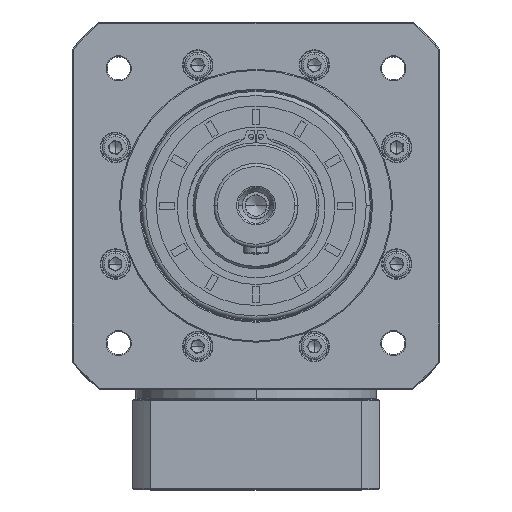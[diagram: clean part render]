
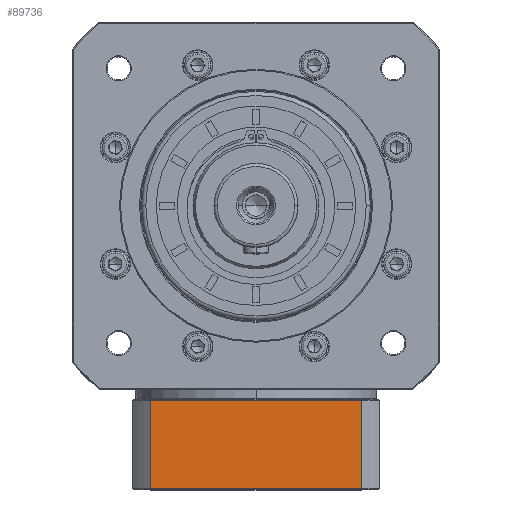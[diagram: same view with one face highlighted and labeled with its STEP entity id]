
A CAD part, top view. The second image highlights one B-rep face of the part: STEP entity #89736.
In plain terms, the highlighted planar face has unit normal (0, 0, 1).
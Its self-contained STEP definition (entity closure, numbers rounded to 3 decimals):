
#6476 = CARTESIAN_POINT ( 'NONE',  ( -244.499, -187.041, 76.611 ) ) ;
#8616 = PLANE ( 'NONE',  #105756 ) ;
#15296 = DIRECTION ( 'NONE',  ( 0., -1., 0. ) ) ;
#17788 = ORIENTED_EDGE ( 'NONE', *, *, #144163, .F. ) ;
#18809 = VECTOR ( 'NONE', #36277, 1000. ) ;
#22966 = ORIENTED_EDGE ( 'NONE', *, *, #58788, .F. ) ;
#29590 = EDGE_CURVE ( 'NONE', #146465, #145043, #51987, .T. ) ;
#32037 = DIRECTION ( 'NONE',  ( -1., 0., 0. ) ) ;
#36277 = DIRECTION ( 'NONE',  ( -1., 0., 0. ) ) ;
#38941 = CARTESIAN_POINT ( 'NONE',  ( -235.75, -186.541, 76.611 ) ) ;
#40320 = VECTOR ( 'NONE', #49070, 1000. ) ;
#43613 = VECTOR ( 'NONE', #155652, 1000. ) ;
#44101 = ORIENTED_EDGE ( 'NONE', *, *, #29590, .F. ) ;
#46286 = LINE ( 'NONE', #57187, #40320 ) ;
#49070 = DIRECTION ( 'NONE',  ( 1., 0., 0. ) ) ;
#51987 = LINE ( 'NONE', #57535, #18809 ) ;
#53467 = CARTESIAN_POINT ( 'NONE',  ( -135.247, -186.541, 76.611 ) ) ;
#57187 = CARTESIAN_POINT ( 'NONE',  ( -244.499, -144.541, 76.611 ) ) ;
#57535 = CARTESIAN_POINT ( 'NONE',  ( -244.499, -186.541, 76.611 ) ) ;
#58788 = EDGE_CURVE ( 'NONE', #85493, #80488, #46286, .T. ) ;
#61342 = CARTESIAN_POINT ( 'NONE',  ( -135.247, -144.541, 76.611 ) ) ;
#64795 = CARTESIAN_POINT ( 'NONE',  ( -135.247, 77.354, 76.611 ) ) ;
#67715 = VECTOR ( 'NONE', #15296, 1000. ) ;
#71587 = LINE ( 'NONE', #64795, #67715 ) ;
#76668 = LINE ( 'NONE', #129984, #43613 ) ;
#80488 = VERTEX_POINT ( 'NONE', #61342 ) ;
#85493 = VERTEX_POINT ( 'NONE', #119146 ) ;
#89736 = ADVANCED_FACE ( 'NONE', ( #123618 ), #8616, .F. ) ;
#102394 = EDGE_CURVE ( 'NONE', #145043, #85493, #76668, .T. ) ;
#103195 = ORIENTED_EDGE ( 'NONE', *, *, #102394, .F. ) ;
#105756 = AXIS2_PLACEMENT_3D ( 'NONE', #6476, #106702, #32037 ) ;
#106702 = DIRECTION ( 'NONE',  ( 0., 0., -1. ) ) ;
#119146 = CARTESIAN_POINT ( 'NONE',  ( -235.75, -144.541, 76.611 ) ) ;
#123618 = FACE_OUTER_BOUND ( 'NONE', #128565, .T. ) ;
#128565 = EDGE_LOOP ( 'NONE', ( #17788, #22966, #103195, #44101 ) ) ;
#129984 = CARTESIAN_POINT ( 'NONE',  ( -235.75, -187.041, 76.611 ) ) ;
#144163 = EDGE_CURVE ( 'NONE', #80488, #146465, #71587, .T. ) ;
#145043 = VERTEX_POINT ( 'NONE', #38941 ) ;
#146465 = VERTEX_POINT ( 'NONE', #53467 ) ;
#155652 = DIRECTION ( 'NONE',  ( 0., 1., 0. ) ) ;
